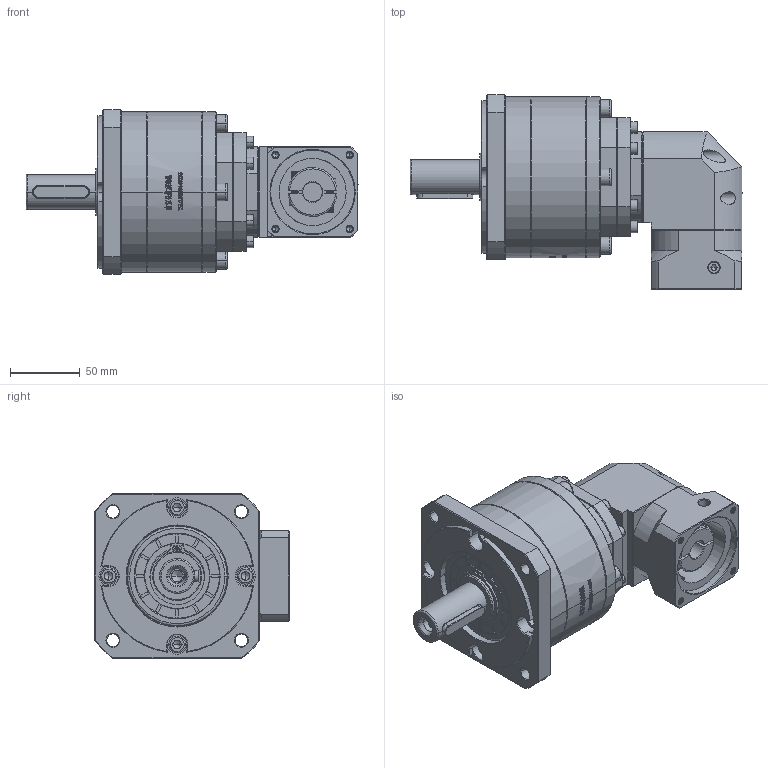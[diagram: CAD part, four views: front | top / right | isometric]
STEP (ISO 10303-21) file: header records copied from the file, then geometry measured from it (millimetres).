
FILE_DESCRIPTION (( 'STEP AP214' ), '1' );
FILE_NAME ('ZFR120A-D25-L3-14-60-75-M5.step', '2023-03-08T14:52:56', ( '' ), ( 'Microsoft' ), 'SwSTEP 2.0', 'SolidWorks 2016', '' );
FILE_SCHEMA (( 'AUTOMOTIVE_DESIGN' ));
Length unit declared in the file: millimetre
Products named in the file (1): ZFR120A-D25-L3-14-60-75-M5
Bounding box: 237.5 x 139.2 x 118 mm (x, y, z)
Volume: 1481334.1 mm3; surface area: 140270.9 mm2
Topology: 6 solids, 6 shells, 3042 faces, 8048 edges, 5162 vertices
Faces by surface type: plane 1595, bspline 637, cylinder 464, cone 346
Entity records: 162314 total; most frequent: CARTESIAN_POINT 59509, ORIENTED_EDGE 15988, DIRECTION 11811, EDGE_CURVE 7994, VERTEX_POINT 5162, LINE 5011, VECTOR 5011, AXIS2_PLACEMENT_3D 3400
